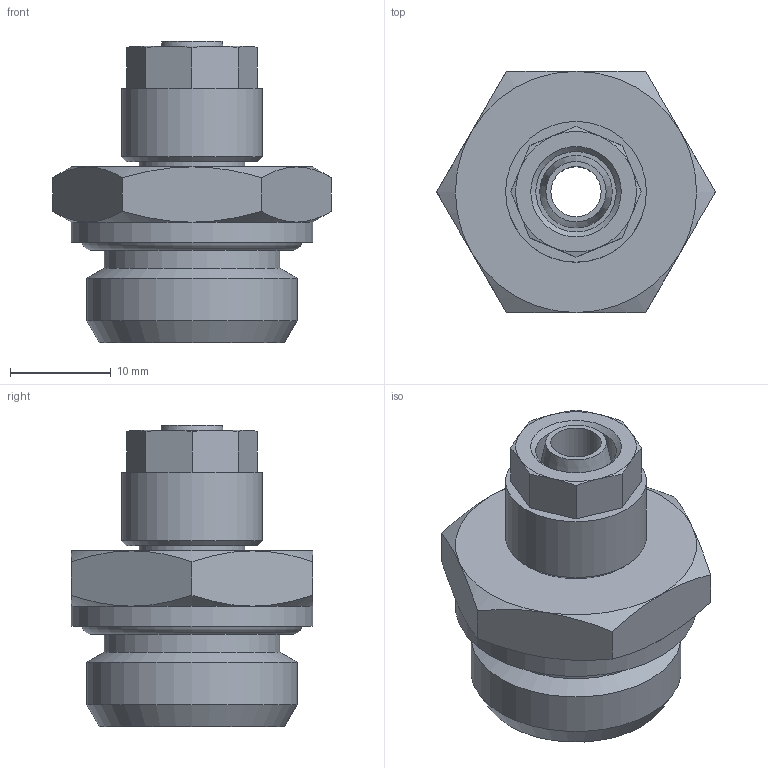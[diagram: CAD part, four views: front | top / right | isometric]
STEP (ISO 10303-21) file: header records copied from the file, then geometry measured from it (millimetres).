
FILE_DESCRIPTION(/* description */ (''),/* implementation_level */ '2;1');
FILE_NAME(/* name */ '10215_301Z_86_12_10.09.15',/* time_stamp */ '2015-09-10T10:29:38+02:00',/* author */ (''),/* organization */ (''),/* preprocessor_version */ 'ST-DEVELOPER v14',/* originating_system */ 'HiCAD 2013 1802.4 Build 509',/* authorisation */ '');
FILE_SCHEMA (('AUTOMOTIVE_DESIGN { 1 0 10303 214 1 1 1 1 }'));
Length unit declared in the file: millimetre
Products named in the file (4): Root; R10215; 17006; OR 17.12X2.62
Assembly tree (3 placements, depth 2):
  Root
    R10215
    17006
    OR 17.12X2.62
Bounding box: 27.71 x 24 x 30 mm (x, y, z)
Volume: 5926.6 mm3; surface area: 4958.2 mm2
Topology: 3 solids, 3 shells, 71 faces, 156 edges, 96 vertices
Faces by surface type: cone 32, plane 24, cylinder 11, torus 4
Full cylindrical faces by diameter (mm): 5 x1, 6.8 x1, 8 x1, 10.5 x1, 10.773 x1, 12 x1, 14 x2, 17.5 x1, 20.955 x1, 24 x1
Entity records: 2969 total; most frequent: DIRECTION 364, CARTESIAN_POINT 276, PRESENTATION_STYLE_ASSIGNMENT 235, COLOUR_RGB 234, DRAUGHTING_PRE_DEFINED_CURVE_FONT 232, CURVE_STYLE 232, OVER_RIDING_STYLED_ITEM 232, ORIENTED_EDGE 232
